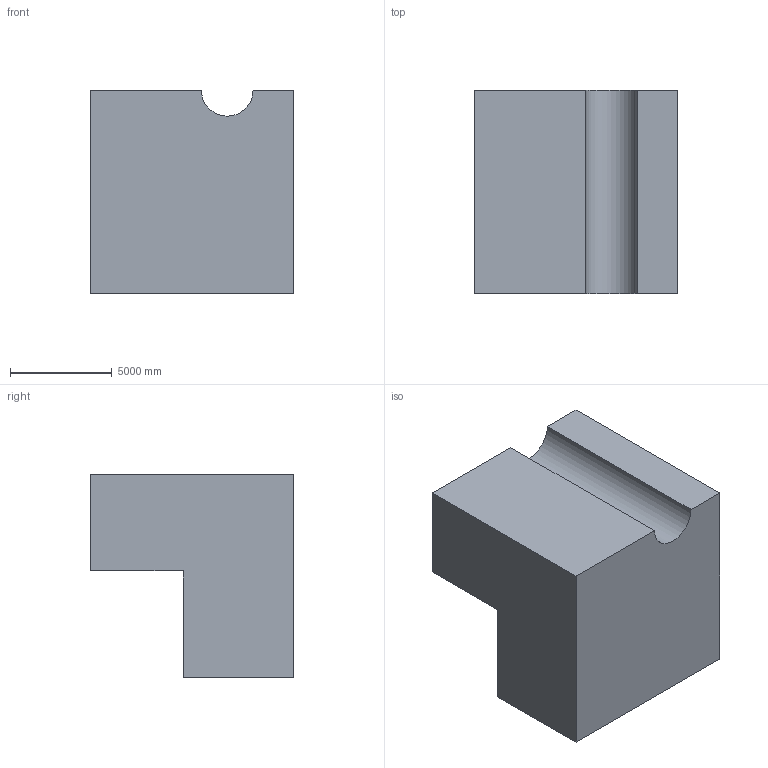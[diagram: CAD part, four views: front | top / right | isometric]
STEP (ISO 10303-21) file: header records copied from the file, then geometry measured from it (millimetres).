
FILE_DESCRIPTION (( 'STEP AP203' ), '1' );
FILE_NAME ('2.STEP', '2022-08-30T13:59:06', ( 'user' ), ( '' ), 'SwSTEP 2.0', 'SolidWorks 2021', '' );
FILE_SCHEMA (( 'CONFIG_CONTROL_DESIGN' ));
Length unit declared in the file: centimetre
Products named in the file (1): 2
Bounding box: 10000 x 10000 x 10000 mm (x, y, z)
Volume: 734734015777.1 mm3; surface area: 561449218.4 mm2
Topology: 1 solids, 1 shells, 10 faces, 24 edges, 16 vertices
Faces by surface type: plane 9, cylinder 1
Entity records: 367 total; most frequent: CARTESIAN_POINT 51, ORIENTED_EDGE 48, DIRECTION 48, EDGE_CURVE 24, VECTOR 22, LINE 22, VERTEX_POINT 16, AXIS2_PLACEMENT_3D 13
